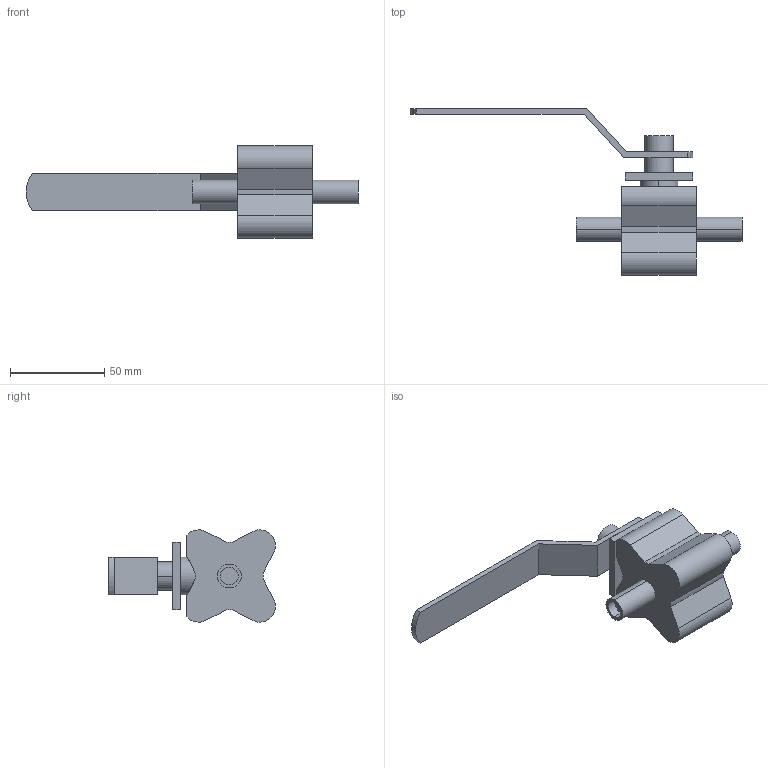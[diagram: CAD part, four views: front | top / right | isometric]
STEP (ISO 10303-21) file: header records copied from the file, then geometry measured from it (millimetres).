
FILE_DESCRIPTION(('Creo Elements/Direct Modeling STEP Export'),'2;1');
FILE_NAME('BLV1-0.5T-H-12S.stp','2019-05-10T 7:39:35',(''),(''),'Creo Elements/Direct Modeling STEP processor for AP214 (Solid Model)','Creo Elements/Direct Modeling 19.0F 14-Feb-2017 (C) Parametric Technology GmbH','');
FILE_SCHEMA(('AUTOMOTIVE_DESIGN { 1 0 10303 214 1 1 1 1 }'));
Length unit declared in the file: millimetre
Products named in the file (1): BLV1-0.5T-H-12S
Bounding box: 176 x 88.46 x 48.92 mm (x, y, z)
Volume: 99885.2 mm3; surface area: 24249.6 mm2
Topology: 1 solids, 1 shells, 56 faces, 138 edges, 92 vertices
Faces by surface type: plane 31, cylinder 25
Entity records: 1626 total; most frequent: CARTESIAN_POINT 293, ORIENTED_EDGE 276, DIRECTION 266, EDGE_CURVE 138, VERTEX_POINT 92, AXIS2_PLACEMENT_3D 91, VECTOR 84, LINE 84
